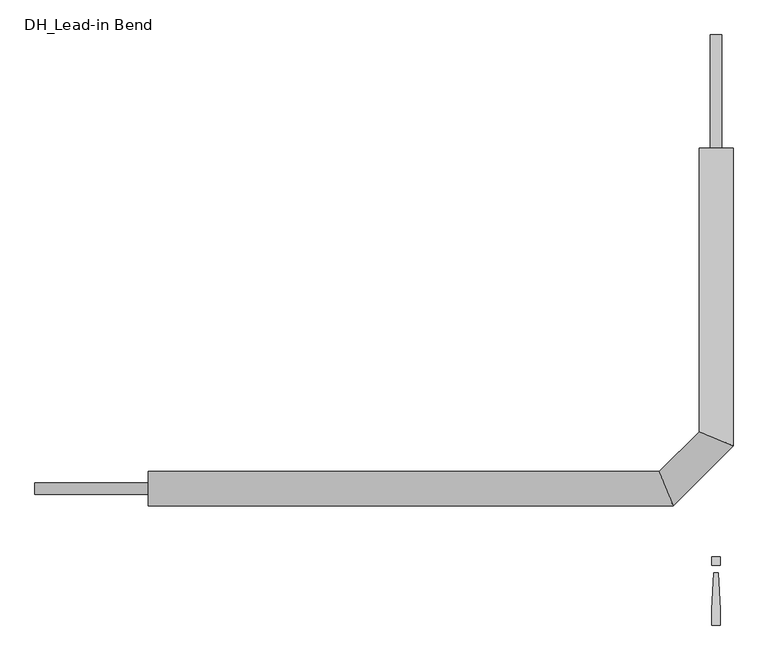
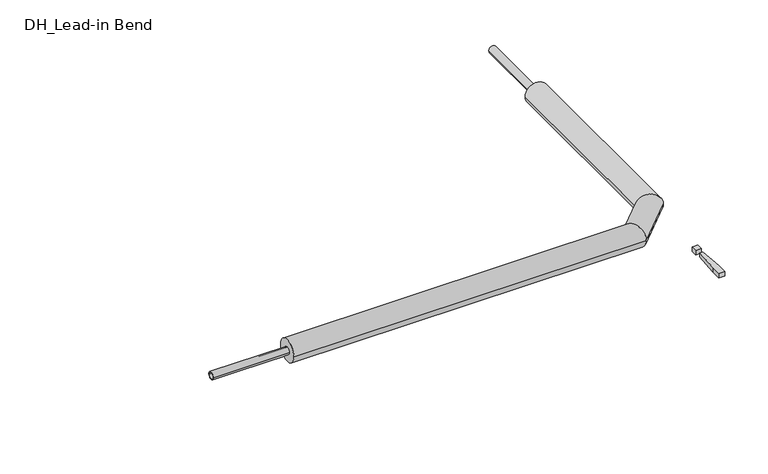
"""IFC4 building model written with IfcOpenShell, lengths in millimetres: pipe fitting geometry, DH_Lead-in Bend : INSULPEX UNO 7.4 DW."""

import ifcopenshell
import ifcopenshell.guid

model = None  # the IFC model being written
_history = None  # IfcOwnerHistory: only IFC2X3 demands one
_inside = {}  # id of a spatial element -> (the spatial element, [elements in it])
_under = {}  # id of a project, library or spatial element -> (it, [spatial elements below it])
_declared = {}  # id of a project -> (the project, [libraries it declares])
_typed = {}  # id of a type object -> (the type object, [elements of that type])
_made_of = {}  # id of a material, layer set ... -> (it, [elements and type objects made of it])


def new_model(schema):
    """Start an empty IFC model of exactly this schema.

    Asked for "IFC4X3", IfcOpenShell would pick the latest addendum, in which some entities
    have other attributes; the version numbers below select the first issue.
    IFC2X3 requires an IfcOwnerHistory on every rooted entity: one is made here for all.
    """
    global model, _history
    if schema == "IFC4X3":
        model = ifcopenshell.file(schema_version=(4, 3, 0, 0))
    else:
        model = ifcopenshell.file(schema=schema)
    _inside.clear()
    _under.clear()
    _declared.clear()
    _typed.clear()
    _made_of.clear()
    _history = None
    if model.schema == "IFC2X3":
        org = make("IfcOrganization", Name="unknown")
        user = make(
            "IfcPersonAndOrganization",
            ThePerson=make("IfcPerson", FamilyName="unknown"),
            TheOrganization=org,
        )
        app = make(
            "IfcApplication",
            ApplicationDeveloper=org,
            Version="unknown",
            ApplicationFullName="unknown",
            ApplicationIdentifier="unknown",
        )
        _history = make(
            "IfcOwnerHistory",
            OwningUser=user,
            OwningApplication=app,
            ChangeAction="ADDED",
            CreationDate=0,
        )
    return model


def make(cls, **values):
    """One entity of the class cls with the attributes given. An attribute that is None is left unset."""
    return model.create_entity(
        cls, **{name: value for name, value in values.items() if value is not None}
    )


def rooted(cls, **values):
    """An entity with a GlobalId (a new one), such as an element, a storey or a relation."""
    return make(cls, GlobalId=ifcopenshell.guid.new(), OwnerHistory=_history, **values)


def si_unit(unit_type, name, prefix=None):
    """IfcSIUnit, for example si_unit("LENGTHUNIT", "METRE", prefix="MILLI")."""
    return make("IfcSIUnit", UnitType=unit_type, Prefix=prefix, Name=name)


def assignment(units):
    """IfcUnitAssignment: the units of a project."""
    return None if units is None else make("IfcUnitAssignment", Units=units)


def point(xyz):
    """IfcCartesianPoint."""
    return None if xyz is None else make("IfcCartesianPoint", Coordinates=xyz)


def direction(xyz):
    """IfcDirection."""
    return None if xyz is None else make("IfcDirection", DirectionRatios=xyz)


def frame(location, z_axis=None, x_axis=None):
    """IfcAxis2Placement3D, a coordinate frame: its origin and axes. An axis left out is left unset."""
    return make(
        "IfcAxis2Placement3D",
        Location=point(location),
        Axis=direction(z_axis),
        RefDirection=direction(x_axis),
    )


def frame_2d(location, x_axis=None):
    """IfcAxis2Placement2D, a coordinate frame in the plane: its origin and x axis."""
    return make(
        "IfcAxis2Placement2D", Location=point(location), RefDirection=direction(x_axis)
    )


def origin():
    """The frame at (0, 0, 0) with its axes left unset."""
    return frame((0.0, 0.0, 0.0))


def origin_with_axes():
    """The frame at (0, 0, 0) with the z axis (0, 0, 1) and the x axis (1, 0, 0) written out."""
    return frame((0.0, 0.0, 0.0), z_axis=(0.0, 0.0, 1.0), x_axis=(1.0, 0.0, 0.0))


def origin_2d():
    """The frame at (0, 0) in the plane with its x axis left unset."""
    return frame_2d((0.0, 0.0))


def place(relative_to, where):
    """IfcLocalPlacement: puts the frame where relative to a parent placement (None: the world)."""
    return make(
        "IfcLocalPlacement", PlacementRelTo=relative_to, RelativePlacement=where
    )


def context(
    kind, dimensions, precision=None, world=None, true_north=None, identifier=None
):
    """IfcGeometricRepresentationContext, for example the 3D "Model" context."""
    return make(
        "IfcGeometricRepresentationContext",
        ContextIdentifier=identifier,
        ContextType=kind,
        CoordinateSpaceDimension=dimensions,
        Precision=precision,
        WorldCoordinateSystem=world,
        TrueNorth=true_north,
    )


def project(units=None, contexts=None):
    """IfcProject with its units and contexts."""
    return rooted(
        "IfcProject",
        Name="project",
        RepresentationContexts=contexts,
        UnitsInContext=assignment(units),
    )


def spatial(cls, under=None, at=None, **own):
    """A site, building, storey or space (cls), placed at a placement, below another one or the project."""
    s = rooted(cls, ObjectPlacement=at, **own)
    if under is not None:
        _under.setdefault(under.id(), (under, []))[1].append(s)
    return s


def polyline(points):
    """IfcPolyline through the points."""
    return make("IfcPolyline", Points=[point(p) for p in points])


def circle_curve(where, radius):
    """IfcCircle in the frame where."""
    return make("IfcCircle", Position=where, Radius=radius)


def ellipse_curve(where, semi_axis1, semi_axis2):
    """IfcEllipse in the frame where."""
    return make(
        "IfcEllipse", Position=where, SemiAxis1=semi_axis1, SemiAxis2=semi_axis2
    )


def trimmed(basis, trim1, trim2, sense, master):
    """IfcTrimmedCurve: the piece of a basis curve between two trims."""
    return make(
        "IfcTrimmedCurve",
        BasisCurve=basis,
        Trim1=trim1,
        Trim2=trim2,
        SenseAgreement=sense,
        MasterRepresentation=master,
    )


def segment(curve, same_sense, transition):
    """IfcCompositeCurveSegment."""
    return make(
        "IfcCompositeCurveSegment",
        Transition=transition,
        SameSense=same_sense,
        ParentCurve=curve,
    )


def composite_curve(segments, self_intersect=None):
    """IfcCompositeCurve: segments joined end to end."""
    return make("IfcCompositeCurve", Segments=segments, SelfIntersect=self_intersect)


def outline(outer, holes=None, kind="AREA"):
    """IfcArbitraryClosedProfileDef: a profile drawn as a closed curve; with holes, ...WithVoids."""
    if holes is None:
        return make("IfcArbitraryClosedProfileDef", ProfileType=kind, OuterCurve=outer)
    return make(
        "IfcArbitraryProfileDefWithVoids",
        ProfileType=kind,
        OuterCurve=outer,
        InnerCurves=holes,
    )


def extrude(swept, where, along, depth):
    """IfcExtrudedAreaSolid: the profile swept, set in the frame where, extruded along a direction by depth."""
    return make(
        "IfcExtrudedAreaSolid",
        SweptArea=swept,
        Position=where,
        ExtrudedDirection=direction(along),
        Depth=depth,
    )


def shape(context_of_items, identifier, shape_type, items):
    """IfcShapeRepresentation: the items that make up one representation, for example the "Body"."""
    return make(
        "IfcShapeRepresentation",
        ContextOfItems=context_of_items,
        RepresentationIdentifier=identifier,
        RepresentationType=shape_type,
        Items=items,
    )


def source(mapping_origin, context_of_items, identifier, shape_type, items):
    """IfcRepresentationMap: a shape defined once, which mapped items show again and again."""
    return make(
        "IfcRepresentationMap",
        MappingOrigin=mapping_origin,
        MappedRepresentation=shape(context_of_items, identifier, shape_type, items),
    )


def transform(
    local_origin,
    x_axis=None,
    y_axis=None,
    z_axis=None,
    scale=None,
    scale2=None,
    scale3=None,
    uniform=True,
):
    """IfcCartesianTransformationOperator3D, or its non-uniform kind. x_axis, y_axis, z_axis: its Axis1, 2, 3."""
    if uniform:
        return make(
            "IfcCartesianTransformationOperator3D",
            Axis1=direction(x_axis),
            Axis2=direction(y_axis),
            LocalOrigin=point(local_origin),
            Scale=scale,
            Axis3=direction(z_axis),
        )
    return make(
        "IfcCartesianTransformationOperator3DnonUniform",
        Axis1=direction(x_axis),
        Axis2=direction(y_axis),
        LocalOrigin=point(local_origin),
        Scale=scale,
        Axis3=direction(z_axis),
        Scale2=scale2,
        Scale3=scale3,
    )


def mapped(mapping_source, mapping_target):
    """IfcMappedItem: shows the shape of a source again, moved by a transform."""
    return make(
        "IfcMappedItem", MappingSource=mapping_source, MappingTarget=mapping_target
    )


def made_of(thing, what):
    """Note that an element or type object is made of a material, layer set ...; save() writes the relation."""
    if what is not None:
        _made_of.setdefault(what.id(), (what, []))[1].append(thing)
    return thing


def element(
    cls,
    number,
    at=None,
    inside=None,
    cuts=None,
    type_object=None,
    material=None,
    context=None,
    identifier="Body",
    shape_type=None,
    held_by="IfcProductDefinitionShape",
    body=None,
    shapes=None,
    **own,
):
    """One element of the class cls, such as IfcWall. Its Tag is "e" and its number.

    at: its placement. inside: the storey or other place that contains it. cuts: it is an
    opening in that element (IfcRelVoidsElement). A single representation is given by context,
    identifier, shape_type and body (its items); several are given by shapes. held_by: the class
    of the entity that holds the representations. save() writes the other relations.
    """
    e = rooted(cls, Tag="e%d" % number, ObjectPlacement=at, **own)
    if body is not None:
        shapes = [shape(context, identifier, shape_type, body)]
    if shapes is not None:
        e.Representation = make(held_by, Representations=shapes)
    if inside is not None:
        _inside.setdefault(inside.id(), (inside, []))[1].append(e)
    if cuts is not None:
        rooted(
            "IfcRelVoidsElement", RelatingBuildingElement=cuts, RelatedOpeningElement=e
        )
    if type_object is not None:
        _typed.setdefault(type_object.id(), (type_object, []))[1].append(e)
    return made_of(e, material)


def aggregate(whole, parts):
    """IfcRelAggregates: a whole, such as a stair, and the parts it consists of."""
    return rooted("IfcRelAggregates", RelatingObject=whole, RelatedObjects=parts)


def save(model, path):
    """Write the relations noted so far, then the file.

    IfcRelAggregates (storeys below a building ...), IfcRelContainedInSpatialStructure (elements
    in a storey), IfcRelDefinesByType, IfcRelAssociatesMaterial and IfcRelDeclares: one each for
    every whole, place, type object, material and project.
    """
    for whole, parts in _under.values():
        aggregate(whole, parts)
    for where, things in _inside.values():
        rooted(
            "IfcRelContainedInSpatialStructure",
            RelatedElements=things,
            RelatingStructure=where,
        )
    for kind, things in _typed.values():
        rooted("IfcRelDefinesByType", RelatedObjects=things, RelatingType=kind)
    for what, things in _made_of.values():
        rooted("IfcRelAssociatesMaterial", RelatedObjects=things, RelatingMaterial=what)
    for by, libraries in _declared.values():
        rooted("IfcRelDeclares", RelatingContext=by, RelatedDefinitions=libraries)
    model.write(path)


def plane_surface(at):
    """IfcPlane: the flat surface through the origin of the frame at, square to its z axis."""
    return make("IfcPlane", Position=at)


def cylinder_surface(at, radius):
    """IfcCylindricalSurface: all points at the distance radius from the z axis of the frame at."""
    return make("IfcCylindricalSurface", Position=at, Radius=radius)


def advanced_brep(points, edges, surfaces, faces):
    """IfcAdvancedBrep: a solid bounded by faces that lie on surfaces and meet in shared edges.

    An edge is (start, end): straight between two places in points (the first is 0);
    or (start, end, curve); or (start, end, curve, False) where it runs against its curve.
    A face is (place in surfaces, loops), or (place, loops, False) where it looks against
    its surface's normal. A loop lists edges by number (the first is 1), with a minus sign
    where the edge is run from its end to its start. The first loop is the outer one.
    """
    corners = [point(p) for p in points]
    vertices = [make("IfcVertexPoint", VertexGeometry=c) for c in corners]
    made = []
    for start, end, *more in edges:
        made.append(
            make(
                "IfcEdgeCurve",
                EdgeStart=vertices[start],
                EdgeEnd=vertices[end],
                EdgeGeometry=more[0] if more else make("IfcPolyline", Points=[corners[start], corners[end]]),
                SameSense=more[1] if len(more) > 1 else True,
            )
        )
    hull = []
    for where, loops, *sense in faces:
        bounds = []
        for j, loop in enumerate(loops):
            ring = [make("IfcOrientedEdge", EdgeElement=made[abs(k) - 1], Orientation=k > 0) for k in loop]
            bounds.append(
                make(
                    "IfcFaceOuterBound" if j == 0 else "IfcFaceBound",
                    Bound=make("IfcEdgeLoop", EdgeList=ring),
                    Orientation=True,
                )
            )
        hull.append(make("IfcAdvancedFace", Bounds=bounds, FaceSurface=surfaces[where], SameSense=sense[0] if sense else True))
    return make("IfcAdvancedBrep", Outer=make("IfcClosedShell", CfsFaces=hull))


def dh_lead_in_bend_c79e8b9f(model_context):
    return source(origin(), model_context, "Body", "SolidModel", [
        advanced_brep(
        [(-1250.0, -37.5, 0.0), (-1250.0, 37.5, 0.0), (-94.4669914, -37.5, 0.0), (-125.5330086, 37.5, 0.0), (37.5, 750.0, 0.0), (-37.5, 750.0, 0.0), (-37.5, 125.5330086, 0.0), (37.5, 94.4669914, 0.0)],
        [
            (0, 1, circle_curve(frame((-1250.0, 0.0, 0.0), z_axis=(-1.0, 0.0, 0.0), x_axis=(0.0, 1.0, 0.0)), 37.5)),
            (1, 0, circle_curve(frame((-1250.0, 0.0, 0.0), z_axis=(-1.0, 0.0, 0.0), x_axis=(0.0, 1.0, 0.0)), 37.5)),
            (0, 2),
            (2, 3, ellipse_curve(frame((-110.0, 0.0, 0.0), z_axis=(-0.9238795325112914, -0.3826834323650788, 0.0), x_axis=(-0.38268343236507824, 0.9238795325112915, 0.0)), 40.5897075, 37.5)),
            (3, 1),
            (3, 2, ellipse_curve(frame((-110.0, 0.0, 0.0), z_axis=(-0.9238795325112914, -0.3826834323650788, 0.0), x_axis=(-0.38268343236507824, 0.9238795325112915, 0.0)), 40.5897075, 37.5)),
            (4, 5, circle_curve(frame((0.0, 750.0, 0.0), z_axis=(0.0, 1.0, 0.0), x_axis=(-1.0, 0.0, 0.0)), 37.5)),
            (5, 4, circle_curve(frame((0.0, 750.0, 0.0), z_axis=(0.0, 1.0, 0.0), x_axis=(-1.0, 0.0, 0.0)), 37.5)),
            (6, 7, ellipse_curve(frame((0.0, 110.0, 0.0), z_axis=(0.38268343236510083, 0.9238795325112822, 0.0), x_axis=(0.9238795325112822, -0.3826834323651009, 0.0)), 40.5897075, 37.5)),
            (7, 4),
            (5, 6),
            (7, 6, ellipse_curve(frame((0.0, 110.0, 0.0), z_axis=(0.38268343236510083, 0.9238795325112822, 0.0), x_axis=(0.9238795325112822, -0.3826834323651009, 0.0)), 40.5897075, 37.5)),
            (2, 7),
            (6, 3),
        ],
        [
            plane_surface(frame((-1250.0, 0.0, 0.0), z_axis=(-1.0, 0.0, 0.0), x_axis=(0.0, 0.0, 1.0))),
            cylinder_surface(frame((-1250.0, 0.0, 0.0), z_axis=(-1.0, 0.0, 0.0), x_axis=(0.0, 1.0, 0.0)), 37.5),
            plane_surface(frame((0.0, 750.0, 0.0), z_axis=(0.0, 1.0, 0.0), x_axis=(0.0, 0.0, 1.0))),
            cylinder_surface(frame((0.0, 110.0, 0.0), z_axis=(0.0, -1.0, 0.0), x_axis=(-1.0, 0.0, 0.0)), 37.5),
            cylinder_surface(frame((-110.0, 0.0, 0.0), z_axis=(-0.7071067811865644, -0.7071067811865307, 0.0), x_axis=(-0.7071067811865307, 0.7071067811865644, 0.0)), 37.5),
        ],
        [
            (0, [[1, 2]]),
            (1, [[-1, 3, 4, 5]]),
            (1, [[-2, -5, 6, -3]]),
            (2, [[7, 8]]),
            (3, [[9, 10, -8, 11]]),
            (3, [[12, -11, -7, -10]]),
            (4, [[-4, 13, -9, 14]]),
            (4, [[-6, -14, -12, -13]]),
        ],
    ),
        extrude(outline(polyline([(4.7088895, -185.3166715), (9.4177791, -266.6553807), (9.4177791, -300.6844652), (-9.4177791, -300.6844652), (-9.4177791, -266.6553807), (-4.7088895, -185.3166715), (4.7088895, -185.3166715)])), origin_with_axes(), (0.0, 0.0, 1.0), 15.0),
        extrude(outline(polyline([(9.4177791, -150.0), (9.4177791, -168.8355582), (-9.4177791, -168.8355582), (-9.4177791, -150.0), (9.4177791, -150.0)])), origin_with_axes(), (0.0, 0.0, 1.0), 15.0),
        extrude(outline(composite_curve([segment(trimmed(circle_curve(origin_2d(), 12.5), [point((-12.5, 0.0))], [point((12.5, 0.0))], False, "CARTESIAN"), True, "CONTINUOUS"), segment(trimmed(circle_curve(origin_2d(), 12.5), [point((12.5, 0.0))], [point((-12.5, 0.0))], False, "CARTESIAN"), True, "CONTINUOUS")], self_intersect=False), holes=[composite_curve([segment(trimmed(circle_curve(origin_2d(), 9.0), [point((-9.0, 0.0))], [point((9.0, 0.0))], True, "CARTESIAN"), True, "CONTINUOUS"), segment(trimmed(circle_curve(origin_2d(), 9.0), [point((9.0, 0.0))], [point((-9.0, 0.0))], True, "CARTESIAN"), True, "CONTINUOUS")], self_intersect=False)]), frame((-1500.0, 0.0, 0.0), z_axis=(1.0, 0.0, 0.0), x_axis=(0.0, 1.0, 0.0)), (0.0, 0.0, 1.0), 250.0),
        extrude(outline(composite_curve([segment(trimmed(circle_curve(origin_2d(), 12.5), [point((0.0, 12.5))], [point((0.0, -12.5))], False, "CARTESIAN"), True, "CONTINUOUS"), segment(trimmed(circle_curve(origin_2d(), 12.5), [point((0.0, -12.5))], [point((0.0, 12.5))], False, "CARTESIAN"), True, "CONTINUOUS")], self_intersect=False), holes=[composite_curve([segment(trimmed(circle_curve(origin_2d(), 9.0), [point((0.0, 9.0))], [point((0.0, -9.0))], True, "CARTESIAN"), True, "CONTINUOUS"), segment(trimmed(circle_curve(origin_2d(), 9.0), [point((0.0, -9.0))], [point((0.0, 9.0))], True, "CARTESIAN"), True, "CONTINUOUS")], self_intersect=False)]), frame((0.0, 750.0, 0.0), z_axis=(0.0, 1.0, 0.0), x_axis=(0.0, 0.0, 1.0)), (0.0, 0.0, 1.0), 250.0),
    ])


if __name__ == "__main__":
    model = new_model("IFC4")
    model_context = context("Model", 3, world=origin())
    ifc_project = project(units=[si_unit("LENGTHUNIT", "METRE", prefix="MILLI")], contexts=[model_context])
    site = spatial("IfcSite", under=ifc_project)
    building = spatial("IfcBuilding", under=site)
    placement = place(None, origin())
    dh_lead_in_bend_shape = dh_lead_in_bend_c79e8b9f(model_context)
    element("IfcPipeFitting", 1, ObjectType="DH_Lead-in Bend : INSULPEX UNO 7.4 DW", at=placement, inside=building, context=model_context, shape_type="MappedRepresentation", body=[
        mapped(dh_lead_in_bend_shape, transform((0.0, 0.0, 0.0), x_axis=(1.0, 0.0, 0.0), y_axis=(0.0, 1.0, 0.0), z_axis=(0.0, 0.0, 1.0))),
    ])
    save(model, "model.ifc")
